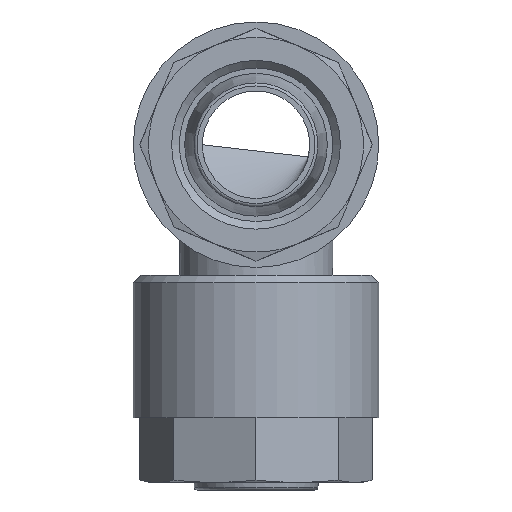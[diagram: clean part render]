
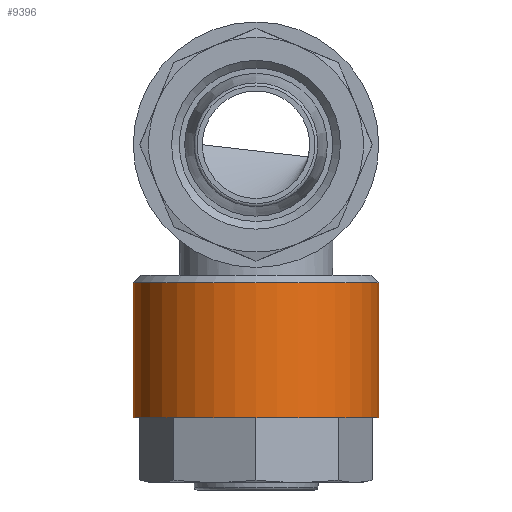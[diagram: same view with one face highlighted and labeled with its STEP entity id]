
A CAD part, left-side view. The second image highlights one B-rep face of the part: STEP entity #9396.
In plain terms, the highlighted cylindrical face has radius 8 mm (diameter 16 mm), a full revolution.
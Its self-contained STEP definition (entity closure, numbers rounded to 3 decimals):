
#3253=CYLINDRICAL_SURFACE('',#9105,8.);
#3480=ORIENTED_EDGE('',*,*,#4261,.F.);
#3481=ORIENTED_EDGE('',*,*,#4262,.T.);
#3889=CIRCLE('',#9104,8.);
#3890=CIRCLE('',#9106,8.);
#4027=VERTEX_POINT('',#5813);
#4028=VERTEX_POINT('',#5816);
#4261=EDGE_CURVE('',#4027,#4027,#3889,.T.);
#4262=EDGE_CURVE('',#4028,#4028,#3890,.T.);
#4516=EDGE_LOOP('',(#3480));
#4517=EDGE_LOOP('',(#3481));
#4728=FACE_BOUND('',#4516,.T.);
#4729=FACE_BOUND('',#4517,.T.);
#5134=DIRECTION('',(0.,1.,0.));
#5135=DIRECTION('',(0.,0.,-8.));
#5136=DIRECTION('',(0.,1.,0.));
#5137=DIRECTION('',(1.,0.,0.));
#5138=DIRECTION('',(0.,1.,0.));
#5139=DIRECTION('',(0.,0.,8.));
#5813=CARTESIAN_POINT('',(26.989,23.895,-8.));
#5814=CARTESIAN_POINT('',(26.989,23.895,0.));
#5815=CARTESIAN_POINT('',(26.989,15.095,0.));
#5816=CARTESIAN_POINT('',(26.989,15.095,8.));
#5817=CARTESIAN_POINT('',(26.989,15.095,0.));
#9104=AXIS2_PLACEMENT_3D('',#5814,#5134,#5135);
#9105=AXIS2_PLACEMENT_3D('',#5815,#5136,#5137);
#9106=AXIS2_PLACEMENT_3D('',#5817,#5138,#5139);
#9396=ADVANCED_FACE('',(#4728,#4729),#3253,.T.);
